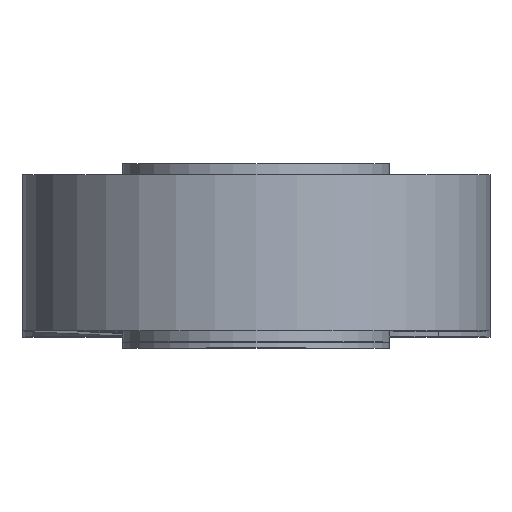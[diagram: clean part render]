
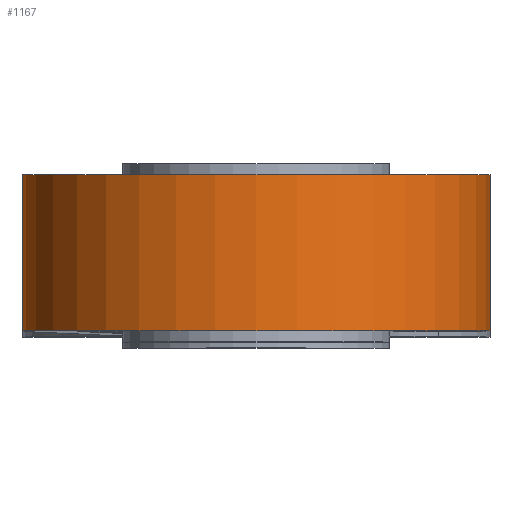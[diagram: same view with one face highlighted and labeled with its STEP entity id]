
A CAD part, top view. The second image highlights one B-rep face of the part: STEP entity #1167.
In plain terms, the highlighted cylindrical face has radius 105 mm (diameter 210 mm), a partial arc.
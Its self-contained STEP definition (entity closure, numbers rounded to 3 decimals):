
#148 = CARTESIAN_POINT ( 'NONE',  ( -75., 35., 2580. ) ) ;
#152 = EDGE_CURVE ( 'NONE', #1592, #268, #1228, .T. ) ;
#176 = ORIENTED_EDGE ( 'NONE', *, *, #152, .T. ) ;
#241 = AXIS2_PLACEMENT_3D ( 'NONE', #1565, #1557, #1555 ) ;
#268 = VERTEX_POINT ( 'NONE', #1102 ) ;
#325 = CARTESIAN_POINT ( 'NONE',  ( -75., -35., 2580. ) ) ;
#353 = AXIS2_PLACEMENT_3D ( 'NONE', #1743, #2149, #2528 ) ;
#377 = CIRCLE ( 'NONE', #1077, 105. ) ;
#511 = VERTEX_POINT ( 'NONE', #325 ) ;
#657 = EDGE_CURVE ( 'NONE', #511, #1592, #1947, .T. ) ;
#659 = CARTESIAN_POINT ( 'NONE',  ( -180., -35., 2580. ) ) ;
#672 = CARTESIAN_POINT ( 'NONE',  ( -285., -35., 2580. ) ) ;
#694 = CARTESIAN_POINT ( 'NONE',  ( -285., -35., 2580. ) ) ;
#758 = EDGE_CURVE ( 'NONE', #511, #1836, #377, .T. ) ;
#901 = DIRECTION ( 'NONE',  ( 0., 1., 0. ) ) ;
#1005 = VECTOR ( 'NONE', #1261, 1000. ) ;
#1034 = FACE_OUTER_BOUND ( 'NONE', #2158, .T. ) ;
#1077 = AXIS2_PLACEMENT_3D ( 'NONE', #659, #1279, #2464 ) ;
#1102 = CARTESIAN_POINT ( 'NONE',  ( -285., 35., 2580. ) ) ;
#1163 = LINE ( 'NONE', #694, #2112 ) ;
#1167 = ADVANCED_FACE ( 'NONE', ( #1034 ), #1983, .T. ) ;
#1228 = CIRCLE ( 'NONE', #241, 105. ) ;
#1261 = DIRECTION ( 'NONE',  ( 0., 1., 0. ) ) ;
#1279 = DIRECTION ( 'NONE',  ( 0., -1., 0. ) ) ;
#1523 = ORIENTED_EDGE ( 'NONE', *, *, #758, .F. ) ;
#1555 = DIRECTION ( 'NONE',  ( 1., 0., 0. ) ) ;
#1557 = DIRECTION ( 'NONE',  ( 0., -1., 0. ) ) ;
#1563 = ORIENTED_EDGE ( 'NONE', *, *, #657, .T. ) ;
#1565 = CARTESIAN_POINT ( 'NONE',  ( -180., 35., 2580. ) ) ;
#1592 = VERTEX_POINT ( 'NONE', #148 ) ;
#1743 = CARTESIAN_POINT ( 'NONE',  ( -180., -35., 2580. ) ) ;
#1836 = VERTEX_POINT ( 'NONE', #672 ) ;
#1947 = LINE ( 'NONE', #2071, #1005 ) ;
#1983 = CYLINDRICAL_SURFACE ( 'NONE', #353, 105. ) ;
#2071 = CARTESIAN_POINT ( 'NONE',  ( -75., -35., 2580. ) ) ;
#2112 = VECTOR ( 'NONE', #901, 1000. ) ;
#2149 = DIRECTION ( 'NONE',  ( 0., 1., 0. ) ) ;
#2158 = EDGE_LOOP ( 'NONE', ( #1523, #1563, #176, #2366 ) ) ;
#2366 = ORIENTED_EDGE ( 'NONE', *, *, #2392, .F. ) ;
#2392 = EDGE_CURVE ( 'NONE', #1836, #268, #1163, .T. ) ;
#2464 = DIRECTION ( 'NONE',  ( 1., 0., 0. ) ) ;
#2528 = DIRECTION ( 'NONE',  ( -1., 0., 0. ) ) ;
